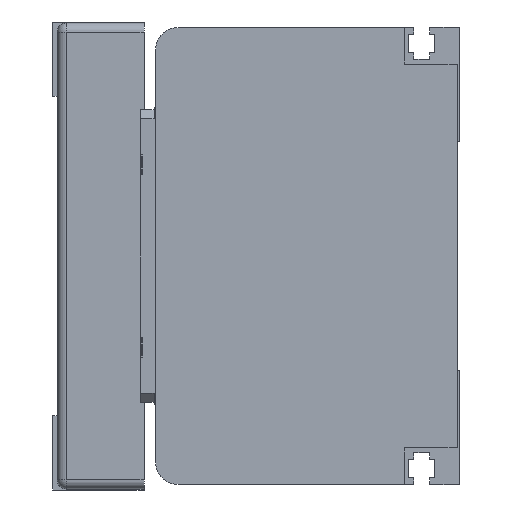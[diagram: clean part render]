
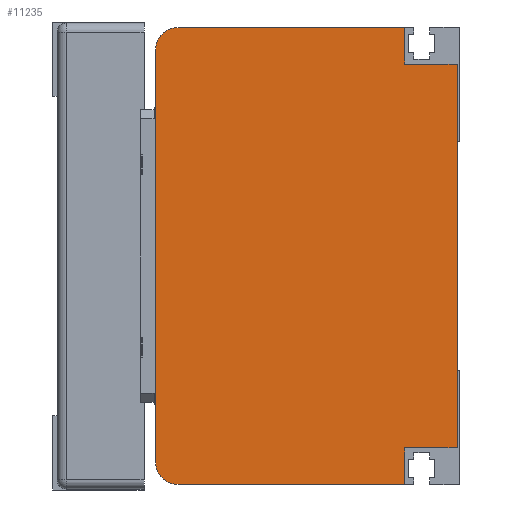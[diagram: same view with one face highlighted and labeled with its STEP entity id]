
A CAD part, left-side view. The second image highlights one B-rep face of the part: STEP entity #11235.
In plain terms, the highlighted planar face has unit normal (-1, 0, 0) as drawn and (0, 0, -1) by its records, which use the part's own axes.
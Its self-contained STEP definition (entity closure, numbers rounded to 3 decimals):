
#683=LINE('',#15708,#1742);
#684=LINE('',#15710,#1743);
#685=LINE('',#15712,#1744);
#686=LINE('',#15716,#1745);
#687=LINE('',#15720,#1746);
#688=LINE('',#15722,#1747);
#689=LINE('',#15724,#1748);
#690=LINE('',#15725,#1749);
#1742=VECTOR('',#13026,8.);
#1743=VECTOR('',#13027,8.);
#1744=VECTOR('',#13028,49.5);
#1745=VECTOR('',#13031,90.);
#1746=VECTOR('',#13034,49.5);
#1747=VECTOR('',#13035,8.);
#1748=VECTOR('',#13036,8.);
#1749=VECTOR('',#13037,98.);
#2757=PLANE('',#12014);
#3320=FACE_OUTER_BOUND('',#4013,.T.);
#4013=EDGE_LOOP('',(#7997,#7998,#7999,#8000,#8001,#8002,#8003,#8004,#8005,
#8006));
#4805=CIRCLE('',#12015,5.);
#4806=CIRCLE('',#12016,5.);
#5089=VERTEX_POINT('',#15706);
#5090=VERTEX_POINT('',#15707);
#5091=VERTEX_POINT('',#15709);
#5092=VERTEX_POINT('',#15711);
#5093=VERTEX_POINT('',#15713);
#5094=VERTEX_POINT('',#15715);
#5095=VERTEX_POINT('',#15717);
#5096=VERTEX_POINT('',#15719);
#5097=VERTEX_POINT('',#15721);
#5098=VERTEX_POINT('',#15723);
#6253=EDGE_CURVE('',#5089,#5090,#683,.T.);
#6254=EDGE_CURVE('',#5090,#5091,#684,.T.);
#6255=EDGE_CURVE('',#5091,#5092,#685,.T.);
#6256=EDGE_CURVE('',#5092,#5093,#4805,.T.);
#6257=EDGE_CURVE('',#5093,#5094,#686,.T.);
#6258=EDGE_CURVE('',#5094,#5095,#4806,.T.);
#6259=EDGE_CURVE('',#5095,#5096,#687,.T.);
#6260=EDGE_CURVE('',#5096,#5097,#688,.T.);
#6261=EDGE_CURVE('',#5097,#5098,#689,.T.);
#6262=EDGE_CURVE('',#5098,#5089,#690,.T.);
#7997=ORIENTED_EDGE('',*,*,#6253,.T.);
#7998=ORIENTED_EDGE('',*,*,#6254,.T.);
#7999=ORIENTED_EDGE('',*,*,#6255,.T.);
#8000=ORIENTED_EDGE('',*,*,#6256,.T.);
#8001=ORIENTED_EDGE('',*,*,#6257,.T.);
#8002=ORIENTED_EDGE('',*,*,#6258,.T.);
#8003=ORIENTED_EDGE('',*,*,#6259,.T.);
#8004=ORIENTED_EDGE('',*,*,#6260,.T.);
#8005=ORIENTED_EDGE('',*,*,#6261,.T.);
#8006=ORIENTED_EDGE('',*,*,#6262,.T.);
#11235=ADVANCED_FACE('',(#3320),#2757,.T.);
#12014=AXIS2_PLACEMENT_3D('',#15705,#13024,#13025);
#12015=AXIS2_PLACEMENT_3D('',#15714,#13029,#13030);
#12016=AXIS2_PLACEMENT_3D('',#15718,#13032,#13033);
#13024=DIRECTION('center_axis',(0.,0.,-1.));
#13025=DIRECTION('ref_axis',(-1.,0.,0.));
#13026=DIRECTION('',(0.,1.,0.));
#13027=DIRECTION('',(-1.,0.,0.));
#13028=DIRECTION('',(0.,1.,0.));
#13029=DIRECTION('center_axis',(0.,0.,-1.));
#13030=DIRECTION('ref_axis',(-1.,0.,0.));
#13031=DIRECTION('',(1.,0.,0.));
#13032=DIRECTION('center_axis',(0.,0.,-1.));
#13033=DIRECTION('ref_axis',(0.,1.,0.));
#13034=DIRECTION('',(0.,-1.,0.));
#13035=DIRECTION('',(-1.,0.,0.));
#13036=DIRECTION('',(0.,-1.,0.));
#13037=DIRECTION('',(-1.,0.,0.));
#15705=CARTESIAN_POINT('Origin',(0.,0.,-1000.));
#15706=CARTESIAN_POINT('',(-9.,-8.,-1000.));
#15707=CARTESIAN_POINT('',(-9.,3.5,-1000.));
#15708=CARTESIAN_POINT('',(-9.,-4.5,-1000.));
#15709=CARTESIAN_POINT('',(-17.,3.5,-1000.));
#15710=CARTESIAN_POINT('',(-9.,3.5,-1000.));
#15711=CARTESIAN_POINT('',(-17.,53.,-1000.));
#15712=CARTESIAN_POINT('',(-17.,3.5,-1000.));
#15713=CARTESIAN_POINT('',(-12.,58.,-1000.));
#15714=CARTESIAN_POINT('Origin',(-12.,53.,-1000.));
#15715=CARTESIAN_POINT('',(78.,58.,-1000.));
#15716=CARTESIAN_POINT('',(-12.,58.,-1000.));
#15717=CARTESIAN_POINT('',(83.,53.,-1000.));
#15718=CARTESIAN_POINT('Origin',(78.,53.,-1000.));
#15719=CARTESIAN_POINT('',(83.,3.5,-1000.));
#15720=CARTESIAN_POINT('',(83.,53.,-1000.));
#15721=CARTESIAN_POINT('',(75.,3.5,-1000.));
#15722=CARTESIAN_POINT('',(83.,3.5,-1000.));
#15723=CARTESIAN_POINT('',(75.,-8.,-1000.));
#15724=CARTESIAN_POINT('',(75.,3.5,-1000.));
#15725=CARTESIAN_POINT('',(82.,-8.,-1000.));
